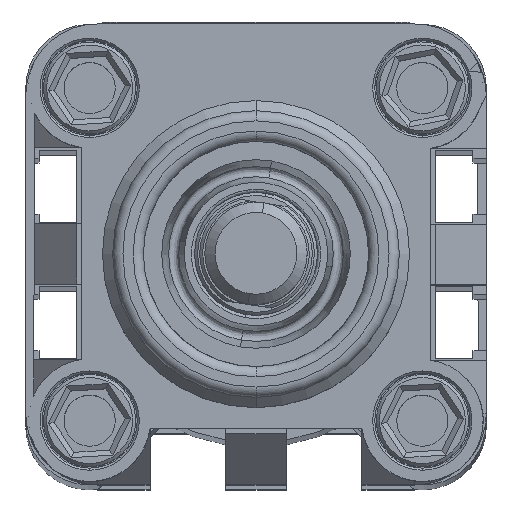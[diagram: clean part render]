
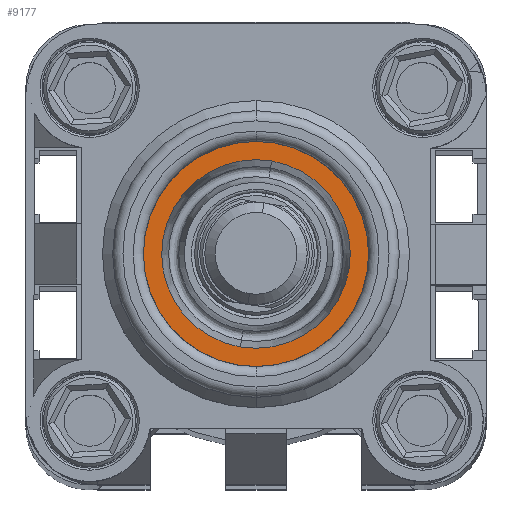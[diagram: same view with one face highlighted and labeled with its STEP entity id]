
A CAD part, top view. The second image highlights one B-rep face of the part: STEP entity #9177.
In plain terms, the highlighted planar face has unit normal (0, 0, 1) as drawn and (0, -1, 0) by its records, which use the part's own axes.
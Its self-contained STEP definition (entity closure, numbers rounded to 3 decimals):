
#309 = PLANE ( 'NONE',  #9005 ) ;
#937 = EDGE_CURVE ( 'NONE', #19333, #13230, #2596, .T. ) ;
#2109 = DIRECTION ( 'NONE',  ( 0., 0., -1. ) ) ;
#2596 = CIRCLE ( 'NONE', #8765, 11. ) ;
#3525 = DIRECTION ( 'NONE',  ( 0., 1., 0. ) ) ;
#3785 = VERTEX_POINT ( 'NONE', #21720 ) ;
#3981 = ORIENTED_EDGE ( 'NONE', *, *, #937, .F. ) ;
#4099 = DIRECTION ( 'NONE',  ( 0., -1., 0. ) ) ;
#5652 = ORIENTED_EDGE ( 'NONE', *, *, #6850, .F. ) ;
#5763 = DIRECTION ( 'NONE',  ( 0., 0., 1. ) ) ;
#6064 = CARTESIAN_POINT ( 'NONE',  ( 0., -10.4, 0. ) ) ;
#6850 = EDGE_CURVE ( 'NONE', #13230, #19333, #14218, .T. ) ;
#7538 = DIRECTION ( 'NONE',  ( 0., 0., -1. ) ) ;
#7595 = CIRCLE ( 'NONE', #22916, 9.214 ) ;
#8486 = CARTESIAN_POINT ( 'NONE',  ( 0., -10.4, -11. ) ) ;
#8661 = DIRECTION ( 'NONE',  ( 0., 0., 1. ) ) ;
#8765 = AXIS2_PLACEMENT_3D ( 'NONE', #6064, #16596, #5763 ) ;
#8917 = CARTESIAN_POINT ( 'NONE',  ( 0., -10.4, 0. ) ) ;
#9005 = AXIS2_PLACEMENT_3D ( 'NONE', #9393, #4099, #7538 ) ;
#9177 = ADVANCED_FACE ( 'NONE', ( #11826, #12122 ), #309, .T. ) ;
#9270 = CARTESIAN_POINT ( 'NONE',  ( 0., -10.4, 11. ) ) ;
#9393 = CARTESIAN_POINT ( 'NONE',  ( -11., -10.4, 0. ) ) ;
#9434 = ORIENTED_EDGE ( 'NONE', *, *, #14308, .T. ) ;
#10698 = DIRECTION ( 'NONE',  ( 0., 1., 0. ) ) ;
#10766 = EDGE_LOOP ( 'NONE', ( #9434, #21465 ) ) ;
#11826 = FACE_BOUND ( 'NONE', #10766, .T. ) ;
#11931 = EDGE_CURVE ( 'NONE', #3785, #18790, #19619, .T. ) ;
#11979 = EDGE_LOOP ( 'NONE', ( #3981, #5652 ) ) ;
#12122 = FACE_OUTER_BOUND ( 'NONE', #11979, .T. ) ;
#13230 = VERTEX_POINT ( 'NONE', #8486 ) ;
#14218 = CIRCLE ( 'NONE', #20804, 11. ) ;
#14308 = EDGE_CURVE ( 'NONE', #18790, #3785, #7595, .T. ) ;
#15252 = AXIS2_PLACEMENT_3D ( 'NONE', #17857, #22064, #2109 ) ;
#16596 = DIRECTION ( 'NONE',  ( 0., 1., 0. ) ) ;
#17857 = CARTESIAN_POINT ( 'NONE',  ( 0., -10.4, 0. ) ) ;
#18790 = VERTEX_POINT ( 'NONE', #19295 ) ;
#19295 = CARTESIAN_POINT ( 'NONE',  ( 0., -10.4, -9.214 ) ) ;
#19333 = VERTEX_POINT ( 'NONE', #9270 ) ;
#19619 = CIRCLE ( 'NONE', #15252, 9.214 ) ;
#19671 = CARTESIAN_POINT ( 'NONE',  ( 0., -10.4, 0. ) ) ;
#20804 = AXIS2_PLACEMENT_3D ( 'NONE', #8917, #3525, #8661 ) ;
#21465 = ORIENTED_EDGE ( 'NONE', *, *, #11931, .T. ) ;
#21720 = CARTESIAN_POINT ( 'NONE',  ( 0., -10.4, 9.214 ) ) ;
#22064 = DIRECTION ( 'NONE',  ( 0., 1., 0. ) ) ;
#22916 = AXIS2_PLACEMENT_3D ( 'NONE', #19671, #10698, #23360 ) ;
#23360 = DIRECTION ( 'NONE',  ( 0., 0., -1. ) ) ;
